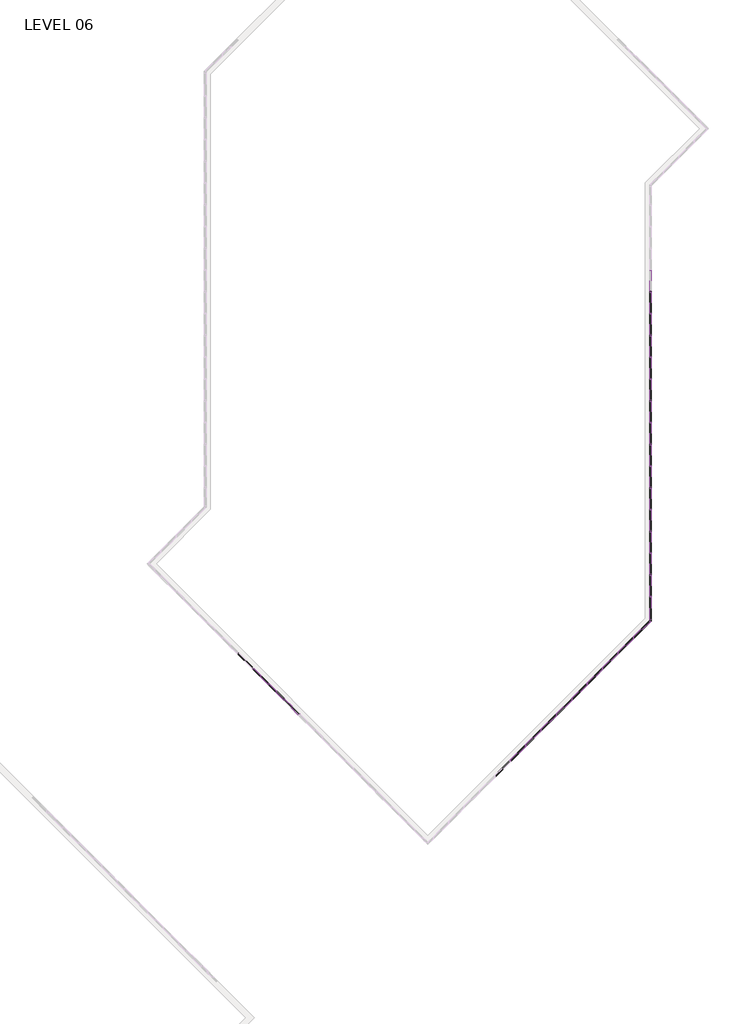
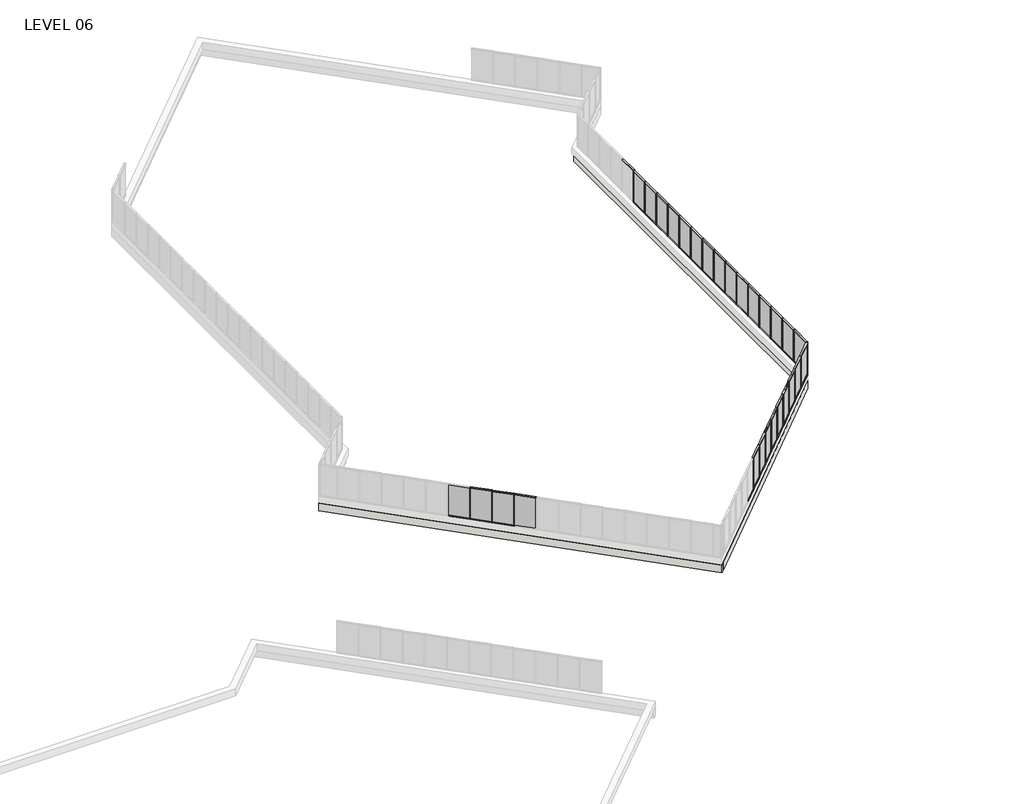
# One storey, part 11 of 17: 85 members, 28 plates, 3 walls.
"""IFC4 building model written with IfcOpenShell, lengths in millimetres."""

from ifc_helpers import new_model, si_unit, origin, place, context, project, spatial, faceted_brep, transform, mapped, element, save
from components import member_5247f267, member_e44af9ab, member_800970d4, member_1bd862b2, member_c975838b, member_910c08c9, plate_67294edd, plate_bbcbcabf, plate_3fb62afd, plate_88df3e37

model = new_model("IFC4")

# Units and contexts
model_context = context("Model", 3, world=origin())
ifc_project = project(units=[si_unit("LENGTHUNIT", "METRE", prefix="MILLI")], contexts=[model_context])

# Site, building, storey
site = spatial("IfcSite", under=ifc_project)
building = spatial("IfcBuilding", under=site)
storey = spatial("IfcBuildingStorey", under=building, Name="LEVEL 06", Elevation=19596.1)

# Members
placement = place(None, origin())
member_shape = member_5247f267(model_context)
element("IfcMember", 1, ObjectType="Rectangular Mullion : 2\" x 4.5\" rectangular", at=placement, inside=storey, context=model_context, shape_type="MappedRepresentation", body=[
    mapped(member_shape, transform((92435.9347164, 58305.3675885, 22186.9), x_axis=(0.0, 0.0, 1.0), y_axis=(-1.0, 0.0, 0.0), z_axis=(0.0, -1.0, 0.0))),
])
element("IfcMember", 2, ObjectType="Rectangular Mullion : 2\" x 4.5\" rectangular", at=placement, inside=storey, context=model_context, shape_type="MappedRepresentation", body=[
    mapped(member_shape, transform((92435.9347164, 56781.3675885, 22186.9), x_axis=(0.0, 0.0, 1.0), y_axis=(-1.0, 0.0, 0.0), z_axis=(0.0, -1.0, 0.0))),
])
element("IfcMember", 3, ObjectType="Rectangular Mullion : 2\" x 4.5\" rectangular", at=placement, inside=storey, context=model_context, shape_type="MappedRepresentation", body=[
    mapped(member_shape, transform((92435.9347164, 55257.3675885, 22186.9), x_axis=(0.0, 0.0, 1.0), y_axis=(-1.0, 0.0, 0.0), z_axis=(0.0, -1.0, 0.0))),
])
element("IfcMember", 4, ObjectType="Rectangular Mullion : 2\" x 4.5\" rectangular", at=placement, inside=storey, context=model_context, shape_type="MappedRepresentation", body=[
    mapped(member_shape, transform((92435.9347164, 52209.3675885, 22186.9), x_axis=(0.0, 0.0, 1.0), y_axis=(-1.0, 0.0, 0.0), z_axis=(0.0, -1.0, 0.0))),
])
element("IfcMember", 5, ObjectType="Rectangular Mullion : 2\" x 4.5\" rectangular", at=placement, inside=storey, context=model_context, shape_type="MappedRepresentation", body=[
    mapped(member_shape, transform((92435.9347164, 50685.3675885, 22186.9), x_axis=(0.0, 0.0, 1.0), y_axis=(-1.0, 0.0, 0.0), z_axis=(0.0, -1.0, 0.0))),
])
element("IfcMember", 6, ObjectType="Rectangular Mullion : 2\" x 4.5\" rectangular", at=placement, inside=storey, context=model_context, shape_type="MappedRepresentation", body=[
    mapped(member_shape, transform((92435.9347164, 47637.3675885, 22186.9), x_axis=(0.0, 0.0, 1.0), y_axis=(-1.0, 0.0, 0.0), z_axis=(0.0, -1.0, 0.0))),
])
element("IfcMember", 7, ObjectType="Rectangular Mullion : 2\" x 4.5\" rectangular", at=placement, inside=storey, context=model_context, shape_type="MappedRepresentation", body=[
    mapped(member_shape, transform((92435.9347164, 43065.3675885, 22186.9), x_axis=(0.0, 0.0, 1.0), y_axis=(-1.0, 0.0, 0.0), z_axis=(0.0, -1.0, 0.0))),
])
element("IfcMember", 8, ObjectType="Rectangular Mullion : 2\" x 4.5\" rectangular", at=placement, inside=storey, context=model_context, shape_type="MappedRepresentation", body=[
    mapped(member_shape, transform((92435.9347164, 41541.3675885, 22186.9), x_axis=(0.0, 0.0, 1.0), y_axis=(-1.0, 0.0, 0.0), z_axis=(0.0, -1.0, 0.0))),
])
element("IfcMember", 9, ObjectType="Rectangular Mullion : 2\" x 4.5\" rectangular", at=placement, inside=storey, context=model_context, shape_type="MappedRepresentation", body=[
    mapped(member_shape, transform((92435.9347164, 59829.3675885, 22186.9), x_axis=(0.0, 0.0, 1.0), y_axis=(-1.0, 0.0, 0.0), z_axis=(0.0, -1.0, 0.0))),
])
element("IfcMember", 10, ObjectType="Rectangular Mullion : 2\" x 4.5\" rectangular", at=placement, inside=storey, context=model_context, shape_type="MappedRepresentation", body=[
    mapped(member_shape, transform((92435.9347164, 61353.3675885, 22186.9), x_axis=(0.0, 0.0, 1.0), y_axis=(-1.0, 0.0, 0.0), z_axis=(0.0, -1.0, 0.0))),
])
element("IfcMember", 11, ObjectType="Rectangular Mullion : 2\" x 4.5\" rectangular", at=placement, inside=storey, context=model_context, shape_type="MappedRepresentation", body=[
    mapped(member_shape, transform((92435.9347164, 49161.3675885, 22186.9), x_axis=(0.0, 0.0, 1.0), y_axis=(-1.0, 0.0, 0.0), z_axis=(0.0, -1.0, 0.0))),
])
element("IfcMember", 12, ObjectType="Rectangular Mullion : 2\" x 4.5\" rectangular", at=placement, inside=storey, context=model_context, shape_type="MappedRepresentation", body=[
    mapped(member_shape, transform((92435.9347164, 53733.3675885, 22186.9), x_axis=(0.0, 0.0, 1.0), y_axis=(-1.0, 0.0, 0.0), z_axis=(0.0, -1.0, 0.0))),
])
element("IfcMember", 13, ObjectType="Rectangular Mullion : 2\" x 4.5\" rectangular", at=placement, inside=storey, context=model_context, shape_type="MappedRepresentation", body=[
    mapped(member_shape, transform((92435.9347164, 46113.3675885, 22186.9), x_axis=(0.0, 0.0, 1.0), y_axis=(-1.0, 0.0, 0.0), z_axis=(0.0, -1.0, 0.0))),
])
element("IfcMember", 14, ObjectType="Rectangular Mullion : 2\" x 4.5\" rectangular", at=placement, inside=storey, context=model_context, shape_type="MappedRepresentation", body=[
    mapped(member_shape, transform((92435.9347164, 44589.3675885, 22186.9), x_axis=(0.0, 0.0, 1.0), y_axis=(-1.0, 0.0, 0.0), z_axis=(0.0, -1.0, 0.0))),
])
element("IfcMember", 15, ObjectType="Rectangular Mullion : 2\" x 4.5\" rectangular", at=placement, inside=storey, context=model_context, shape_type="MappedRepresentation", body=[
    mapped(member_shape, transform((92435.9347164, 40017.3675885, 22186.9), x_axis=(0.0, 0.0, 1.0), y_axis=(-1.0, 0.0, 0.0), z_axis=(0.0, -1.0, 0.0))),
])
element("IfcMember", 16, ObjectType="Rectangular Mullion : 2\" x 4.5\" rectangular", at=placement, inside=storey, context=model_context, shape_type="MappedRepresentation", body=[
    mapped(member_shape, transform((90181.6405, 36047.9672365, 22186.9), x_axis=(0.0, 0.0, 1.0), y_axis=(-0.7071067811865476, 0.7071067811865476, 0.0), z_axis=(-0.7071067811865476, -0.7071067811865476, 0.0))),
])
element("IfcMember", 17, ObjectType="Rectangular Mullion : 2\" x 4.5\" rectangular", at=placement, inside=storey, context=model_context, shape_type="MappedRepresentation", body=[
    mapped(member_shape, transform((89104.0097655, 34970.336502, 22186.9), x_axis=(0.0, 0.0, 1.0), y_axis=(-0.7071067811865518, 0.7071067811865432, 0.0), z_axis=(-0.7071067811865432, -0.7071067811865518, 0.0))),
])
element("IfcMember", 18, ObjectType="Rectangular Mullion : 2\" x 4.5\" rectangular", at=placement, inside=storey, context=model_context, shape_type="MappedRepresentation", body=[
    mapped(member_shape, transform((88026.379031, 33892.7057675, 22186.9), x_axis=(0.0, 0.0, 1.0), y_axis=(-0.707106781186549, 0.7071067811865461, 0.0), z_axis=(-0.7071067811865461, -0.707106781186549, 0.0))),
])
element("IfcMember", 19, ObjectType="Rectangular Mullion : 2\" x 4.5\" rectangular", at=placement, inside=storey, context=model_context, shape_type="MappedRepresentation", body=[
    mapped(member_shape, transform((85871.1175619, 31737.4442984, 22186.9), x_axis=(0.0, 0.0, 1.0), y_axis=(-0.7071067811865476, 0.7071067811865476, 0.0), z_axis=(-0.7071067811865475, -0.7071067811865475, 0.0))),
])
element("IfcMember", 20, ObjectType="Rectangular Mullion : 2\" x 4.5\" rectangular", at=placement, inside=storey, context=model_context, shape_type="MappedRepresentation", body=[
    mapped(member_shape, transform((84793.4868274, 30659.8135639, 22186.9), x_axis=(0.0, 0.0, 1.0), y_axis=(-0.7071067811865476, 0.7071067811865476, 0.0), z_axis=(-0.7071067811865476, -0.7071067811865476, 0.0))),
])
element("IfcMember", 21, ObjectType="Rectangular Mullion : 2\" x 4.5\" rectangular", at=placement, inside=storey, context=model_context, shape_type="MappedRepresentation", body=[
    mapped(member_shape, transform((83715.8560929, 29582.1828294, 22186.9), x_axis=(0.0, 0.0, 1.0), y_axis=(-0.7071067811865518, 0.7071067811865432, 0.0), z_axis=(-0.7071067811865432, -0.7071067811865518, 0.0))),
])
element("IfcMember", 22, ObjectType="Rectangular Mullion : 2\" x 4.5\" rectangular", at=placement, inside=storey, context=model_context, shape_type="MappedRepresentation", body=[
    mapped(member_shape, transform((86948.7482965, 32815.0750329, 22186.9), x_axis=(0.0, 0.0, 1.0), y_axis=(-0.7071067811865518, 0.7071067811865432, 0.0), z_axis=(-0.7071067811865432, -0.7071067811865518, 0.0))),
])
element("IfcMember", 23, ObjectType="Rectangular Mullion : 2\" x 4.5\" rectangular", at=placement, inside=storey, context=model_context, shape_type="MappedRepresentation", body=[
    mapped(member_shape, transform((82638.2253583, 28504.5520948, 22186.9), x_axis=(0.0, 0.0, 1.0), y_axis=(-0.7071067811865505, 0.7071067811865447, 0.0), z_axis=(-0.7071067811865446, -0.7071067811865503, 0.0))),
])
element("IfcMember", 24, ObjectType="Rectangular Mullion : 2\" x 4.5\" rectangular", at=placement, inside=storey, context=model_context, shape_type="MappedRepresentation", body=[
    mapped(member_shape, transform((64631.8093644, 34934.2368049, 22186.9), x_axis=(0.0, 0.0, 1.0), y_axis=(0.7071067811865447, 0.7071067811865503, 0.0), z_axis=(-0.7071067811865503, 0.7071067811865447, 0.0))),
])
element("IfcMember", 25, ObjectType="Rectangular Mullion : 2\" x 4.5\" rectangular", at=placement, inside=storey, context=model_context, shape_type="MappedRepresentation", body=[
    mapped(member_shape, transform((92435.9347164, 58254.5675885, 19596.1), x_axis=(0.0, 0.0, -1.0), y_axis=(-1.0, 0.0, 0.0), z_axis=(0.0, 1.0, 0.0))),
])
element("IfcMember", 26, ObjectType="Rectangular Mullion : 2\" x 4.5\" rectangular", at=placement, inside=storey, context=model_context, shape_type="MappedRepresentation", body=[
    mapped(member_shape, transform((92435.9347164, 56730.5675885, 19596.1), x_axis=(0.0, 0.0, -1.0), y_axis=(-1.0, 0.0, 0.0), z_axis=(0.0, 1.0, 0.0))),
])
element("IfcMember", 27, ObjectType="Rectangular Mullion : 2\" x 4.5\" rectangular", at=placement, inside=storey, context=model_context, shape_type="MappedRepresentation", body=[
    mapped(member_shape, transform((92435.9347164, 55206.5675885, 19596.1), x_axis=(0.0, 0.0, -1.0), y_axis=(-1.0, 0.0, 0.0), z_axis=(0.0, 1.0, 0.0))),
])
element("IfcMember", 28, ObjectType="Rectangular Mullion : 2\" x 4.5\" rectangular", at=placement, inside=storey, context=model_context, shape_type="MappedRepresentation", body=[
    mapped(member_shape, transform((92435.9347164, 52158.5675885, 19596.1), x_axis=(0.0, 0.0, -1.0), y_axis=(-1.0, 0.0, 0.0), z_axis=(0.0, 1.0, 0.0))),
])
element("IfcMember", 29, ObjectType="Rectangular Mullion : 2\" x 4.5\" rectangular", at=placement, inside=storey, context=model_context, shape_type="MappedRepresentation", body=[
    mapped(member_shape, transform((92435.9347164, 50634.5675885, 19596.1), x_axis=(0.0, 0.0, -1.0), y_axis=(-1.0, 0.0, 0.0), z_axis=(0.0, 1.0, 0.0))),
])
element("IfcMember", 30, ObjectType="Rectangular Mullion : 2\" x 4.5\" rectangular", at=placement, inside=storey, context=model_context, shape_type="MappedRepresentation", body=[
    mapped(member_shape, transform((92435.9347164, 47586.5675885, 19596.1), x_axis=(0.0, 0.0, -1.0), y_axis=(-1.0, 0.0, 0.0), z_axis=(0.0, 1.0, 0.0))),
])
element("IfcMember", 31, ObjectType="Rectangular Mullion : 2\" x 4.5\" rectangular", at=placement, inside=storey, context=model_context, shape_type="MappedRepresentation", body=[
    mapped(member_shape, transform((92435.9347164, 43014.5675885, 19596.1), x_axis=(0.0, 0.0, -1.0), y_axis=(-1.0, 0.0, 0.0), z_axis=(0.0, 1.0, 0.0))),
])
element("IfcMember", 32, ObjectType="Rectangular Mullion : 2\" x 4.5\" rectangular", at=placement, inside=storey, context=model_context, shape_type="MappedRepresentation", body=[
    mapped(member_shape, transform((92435.9347164, 41490.5675885, 19596.1), x_axis=(0.0, 0.0, -1.0), y_axis=(-1.0, 0.0, 0.0), z_axis=(0.0, 1.0, 0.0))),
])
element("IfcMember", 33, ObjectType="Rectangular Mullion : 2\" x 4.5\" rectangular", at=placement, inside=storey, context=model_context, shape_type="MappedRepresentation", body=[
    mapped(member_shape, transform((92435.9347164, 59778.5675885, 19596.1), x_axis=(0.0, 0.0, -1.0), y_axis=(-1.0, 0.0, 0.0), z_axis=(0.0, 1.0, 0.0))),
])
element("IfcMember", 34, ObjectType="Rectangular Mullion : 2\" x 4.5\" rectangular", at=placement, inside=storey, context=model_context, shape_type="MappedRepresentation", body=[
    mapped(member_shape, transform((92435.9347164, 61302.5675885, 19596.1), x_axis=(0.0, 0.0, -1.0), y_axis=(-1.0, 0.0, 0.0), z_axis=(0.0, 1.0, 0.0))),
])
element("IfcMember", 35, ObjectType="Rectangular Mullion : 2\" x 4.5\" rectangular", at=placement, inside=storey, context=model_context, shape_type="MappedRepresentation", body=[
    mapped(member_shape, transform((92435.9347164, 49110.5675885, 19596.1), x_axis=(0.0, 0.0, -1.0), y_axis=(-1.0, 0.0, 0.0), z_axis=(0.0, 1.0, 0.0))),
])
element("IfcMember", 36, ObjectType="Rectangular Mullion : 2\" x 4.5\" rectangular", at=placement, inside=storey, context=model_context, shape_type="MappedRepresentation", body=[
    mapped(member_shape, transform((92435.9347164, 53682.5675885, 19596.1), x_axis=(0.0, 0.0, -1.0), y_axis=(-1.0, 0.0, 0.0), z_axis=(0.0, 1.0, 0.0))),
])
element("IfcMember", 37, ObjectType="Rectangular Mullion : 2\" x 4.5\" rectangular", at=placement, inside=storey, context=model_context, shape_type="MappedRepresentation", body=[
    mapped(member_shape, transform((92435.9347164, 46062.5675885, 19596.1), x_axis=(0.0, 0.0, -1.0), y_axis=(-1.0, 0.0, 0.0), z_axis=(0.0, 1.0, 0.0))),
])
element("IfcMember", 38, ObjectType="Rectangular Mullion : 2\" x 4.5\" rectangular", at=placement, inside=storey, context=model_context, shape_type="MappedRepresentation", body=[
    mapped(member_shape, transform((92435.9347164, 44538.5675885, 19596.1), x_axis=(0.0, 0.0, -1.0), y_axis=(-1.0, 0.0, 0.0), z_axis=(0.0, 1.0, 0.0))),
])
element("IfcMember", 39, ObjectType="Rectangular Mullion : 2\" x 4.5\" rectangular", at=placement, inside=storey, context=model_context, shape_type="MappedRepresentation", body=[
    mapped(member_shape, transform((91223.3502101, 37089.6769466, 19596.1), x_axis=(0.0, 0.0, -1.0), y_axis=(-0.7071067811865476, 0.7071067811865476, 0.0), z_axis=(0.7071067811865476, 0.7071067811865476, 0.0))),
])
element("IfcMember", 40, ObjectType="Rectangular Mullion : 2\" x 4.5\" rectangular", at=placement, inside=storey, context=model_context, shape_type="MappedRepresentation", body=[
    mapped(member_shape, transform((90145.7194756, 36012.046212, 19596.1), x_axis=(0.0, 0.0, -1.0), y_axis=(-0.7071067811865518, 0.7071067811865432, 0.0), z_axis=(0.7071067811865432, 0.7071067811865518, 0.0))),
])
element("IfcMember", 41, ObjectType="Rectangular Mullion : 2\" x 4.5\" rectangular", at=placement, inside=storey, context=model_context, shape_type="MappedRepresentation", body=[
    mapped(member_shape, transform((89068.088741, 34934.4154775, 19596.1), x_axis=(0.0, 0.0, -1.0), y_axis=(-0.707106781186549, 0.7071067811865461, 0.0), z_axis=(0.7071067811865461, 0.707106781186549, 0.0))),
])
element("IfcMember", 42, ObjectType="Rectangular Mullion : 2\" x 4.5\" rectangular", at=placement, inside=storey, context=model_context, shape_type="MappedRepresentation", body=[
    mapped(member_shape, transform((87990.4580065, 33856.784743, 19596.1), x_axis=(0.0, 0.0, -1.0), y_axis=(-0.7071067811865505, 0.7071067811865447, 0.0), z_axis=(0.7071067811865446, 0.7071067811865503, 0.0))),
])
element("IfcMember", 43, ObjectType="Rectangular Mullion : 2\" x 4.5\" rectangular", at=placement, inside=storey, context=model_context, shape_type="MappedRepresentation", body=[
    mapped(member_shape, transform((85835.1965374, 31701.5232739, 19596.1), x_axis=(0.0, 0.0, -1.0), y_axis=(-0.7071067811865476, 0.7071067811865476, 0.0), z_axis=(0.7071067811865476, 0.7071067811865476, 0.0))),
])
element("IfcMember", 44, ObjectType="Rectangular Mullion : 2\" x 4.5\" rectangular", at=placement, inside=storey, context=model_context, shape_type="MappedRepresentation", body=[
    mapped(member_shape, transform((84757.5658029, 30623.8925394, 19596.1), x_axis=(0.0, 0.0, -1.0), y_axis=(-0.7071067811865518, 0.7071067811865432, 0.0), z_axis=(0.7071067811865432, 0.7071067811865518, 0.0))),
])
element("IfcMember", 45, ObjectType="Rectangular Mullion : 2\" x 4.5\" rectangular", at=placement, inside=storey, context=model_context, shape_type="MappedRepresentation", body=[
    mapped(member_shape, transform((83679.9350684, 29546.2618049, 19596.1), x_axis=(0.0, 0.0, -1.0), y_axis=(-0.7071067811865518, 0.7071067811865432, 0.0), z_axis=(0.7071067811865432, 0.7071067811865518, 0.0))),
])
element("IfcMember", 46, ObjectType="Rectangular Mullion : 2\" x 4.5\" rectangular", at=placement, inside=storey, context=model_context, shape_type="MappedRepresentation", body=[
    mapped(member_shape, transform((86912.827272, 32779.1540085, 19596.1), x_axis=(0.0, 0.0, -1.0), y_axis=(-0.7071067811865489, 0.7071067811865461, 0.0), z_axis=(0.7071067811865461, 0.7071067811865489, 0.0))),
])
element("IfcMember", 47, ObjectType="Rectangular Mullion : 2\" x 4.5\" rectangular", at=placement, inside=storey, context=model_context, shape_type="MappedRepresentation", body=[
    mapped(member_shape, transform((82602.3043339, 28468.6310704, 19596.1), x_axis=(0.0, 0.0, -1.0), y_axis=(-0.7071067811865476, 0.7071067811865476, 0.0), z_axis=(0.7071067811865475, 0.7071067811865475, 0.0))),
])
element("IfcMember", 48, ObjectType="Rectangular Mullion : 2\" x 4.5\" rectangular", at=placement, inside=storey, context=model_context, shape_type="MappedRepresentation", body=[
    mapped(member_shape, transform((65673.5190745, 33892.5270948, 19596.1), x_axis=(0.0, 0.0, -1.0), y_axis=(0.7071067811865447, 0.7071067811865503, 0.0), z_axis=(0.7071067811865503, -0.7071067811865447, 0.0))),
])
element("IfcMember", 49, ObjectType="Rectangular Mullion : 2\" x 4.5\" rectangular", at=placement, inside=storey, context=model_context, shape_type="MappedRepresentation", body=[
    mapped(member_shape, transform((64595.8883399, 34970.1578294, 19596.1), x_axis=(0.0, 0.0, -1.0), y_axis=(0.7071067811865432, 0.7071067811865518, 0.0), z_axis=(0.7071067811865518, -0.7071067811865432, 0.0))),
])
member_2_shape = member_e44af9ab(model_context)
element("IfcMember", 50, ObjectType="Rectangular Mullion : 2\" x 4.5\" rectangular", at=placement, inside=storey, context=model_context, shape_type="MappedRepresentation", body=[
    mapped(member_2_shape, transform((92435.9347164, 58279.9675885, 19596.1), x_axis=(0.0, -1.0, 0.0), y_axis=(-1.0, 0.0, 0.0), z_axis=(0.0, 0.0, -1.0))),
])
element("IfcMember", 51, ObjectType="Rectangular Mullion : 2\" x 4.5\" rectangular", at=placement, inside=storey, context=model_context, shape_type="MappedRepresentation", body=[
    mapped(member_2_shape, transform((92435.9347164, 56755.9675885, 19596.1), x_axis=(0.0, -1.0, 0.0), y_axis=(-1.0, 0.0, 0.0), z_axis=(0.0, 0.0, -1.0))),
])
element("IfcMember", 52, ObjectType="Rectangular Mullion : 2\" x 4.5\" rectangular", at=placement, inside=storey, context=model_context, shape_type="MappedRepresentation", body=[
    mapped(member_2_shape, transform((92435.9347164, 55231.9675885, 19596.1), x_axis=(0.0, -1.0, 0.0), y_axis=(-1.0, 0.0, 0.0), z_axis=(0.0, 0.0, -1.0))),
])
element("IfcMember", 53, ObjectType="Rectangular Mullion : 2\" x 4.5\" rectangular", at=placement, inside=storey, context=model_context, shape_type="MappedRepresentation", body=[
    mapped(member_2_shape, transform((92435.9347164, 52183.9675885, 19596.1), x_axis=(0.0, -1.0, 0.0), y_axis=(-1.0, 0.0, 0.0), z_axis=(0.0, 0.0, -1.0))),
])
element("IfcMember", 54, ObjectType="Rectangular Mullion : 2\" x 4.5\" rectangular", at=placement, inside=storey, context=model_context, shape_type="MappedRepresentation", body=[
    mapped(member_2_shape, transform((92435.9347164, 50659.9675885, 19596.1), x_axis=(0.0, -1.0, 0.0), y_axis=(-1.0, 0.0, 0.0), z_axis=(0.0, 0.0, -1.0))),
])
element("IfcMember", 55, ObjectType="Rectangular Mullion : 2\" x 4.5\" rectangular", at=placement, inside=storey, context=model_context, shape_type="MappedRepresentation", body=[
    mapped(member_2_shape, transform((92435.9347164, 47611.9675885, 19596.1), x_axis=(0.0, -1.0, 0.0), y_axis=(-1.0, 0.0, 0.0), z_axis=(0.0, 0.0, -1.0))),
])
element("IfcMember", 56, ObjectType="Rectangular Mullion : 2\" x 4.5\" rectangular", at=placement, inside=storey, context=model_context, shape_type="MappedRepresentation", body=[
    mapped(member_2_shape, transform((92435.9347164, 43039.9675885, 19596.1), x_axis=(0.0, -1.0, 0.0), y_axis=(-1.0, 0.0, 0.0), z_axis=(0.0, 0.0, -1.0))),
])
element("IfcMember", 57, ObjectType="Rectangular Mullion : 2\" x 4.5\" rectangular", at=placement, inside=storey, context=model_context, shape_type="MappedRepresentation", body=[
    mapped(member_2_shape, transform((92435.9347164, 41515.9675885, 19596.1), x_axis=(0.0, -1.0, 0.0), y_axis=(-1.0, 0.0, 0.0), z_axis=(0.0, 0.0, -1.0))),
])
element("IfcMember", 58, ObjectType="Rectangular Mullion : 2\" x 4.5\" rectangular", at=placement, inside=storey, context=model_context, shape_type="MappedRepresentation", body=[
    mapped(member_2_shape, transform((92435.9347164, 59803.9675885, 19596.1), x_axis=(0.0, -1.0, 0.0), y_axis=(-1.0, 0.0, 0.0), z_axis=(0.0, 0.0, -1.0))),
])
element("IfcMember", 59, ObjectType="Rectangular Mullion : 2\" x 4.5\" rectangular", at=placement, inside=storey, context=model_context, shape_type="MappedRepresentation", body=[
    mapped(member_2_shape, transform((92435.9347164, 61327.9675885, 19596.1), x_axis=(0.0, -1.0, 0.0), y_axis=(-1.0, 0.0, 0.0), z_axis=(0.0, 0.0, -1.0))),
])
element("IfcMember", 60, ObjectType="Rectangular Mullion : 2\" x 4.5\" rectangular", at=placement, inside=storey, context=model_context, shape_type="MappedRepresentation", body=[
    mapped(member_2_shape, transform((92435.9347164, 49135.9675885, 19596.1), x_axis=(0.0, -1.0, 0.0), y_axis=(-1.0, 0.0, 0.0), z_axis=(0.0, 0.0, -1.0))),
])
element("IfcMember", 61, ObjectType="Rectangular Mullion : 2\" x 4.5\" rectangular", at=placement, inside=storey, context=model_context, shape_type="MappedRepresentation", body=[
    mapped(member_2_shape, transform((92435.9347164, 53707.9675885, 19596.1), x_axis=(0.0, -1.0, 0.0), y_axis=(-1.0, 0.0, 0.0), z_axis=(0.0, 0.0, -1.0))),
])
element("IfcMember", 62, ObjectType="Rectangular Mullion : 2\" x 4.5\" rectangular", at=placement, inside=storey, context=model_context, shape_type="MappedRepresentation", body=[
    mapped(member_2_shape, transform((92435.9347164, 46087.9675885, 19596.1), x_axis=(0.0, -1.0, 0.0), y_axis=(-1.0, 0.0, 0.0), z_axis=(0.0, 0.0, -1.0))),
])
element("IfcMember", 63, ObjectType="Rectangular Mullion : 2\" x 4.5\" rectangular", at=placement, inside=storey, context=model_context, shape_type="MappedRepresentation", body=[
    mapped(member_2_shape, transform((92435.9347164, 44563.9675885, 19596.1), x_axis=(0.0, -1.0, 0.0), y_axis=(-1.0, 0.0, 0.0), z_axis=(0.0, 0.0, -1.0))),
])
element("IfcMember", 64, ObjectType="Rectangular Mullion : 2\" x 4.5\" rectangular", at=placement, inside=storey, context=model_context, shape_type="MappedRepresentation", body=[
    mapped(member_2_shape, transform((92435.9347164, 39991.9675885, 19596.1), x_axis=(0.0, -1.0, 0.0), y_axis=(-1.0, 0.0, 0.0), z_axis=(0.0, 0.0, -1.0))),
])
element("IfcMember", 65, ObjectType="Rectangular Mullion : 2\" x 4.5\" rectangular", at=placement, inside=storey, context=model_context, shape_type="MappedRepresentation", body=[
    mapped(member_2_shape, transform((91241.3107223, 37107.6374588, 19596.1), x_axis=(-0.7071067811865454, -0.7071067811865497, 0.0), y_axis=(-0.7071067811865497, 0.7071067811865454, 0.0), z_axis=(0.0, 0.0, -1.0))),
])
element("IfcMember", 66, ObjectType="Rectangular Mullion : 2\" x 4.5\" rectangular", at=placement, inside=storey, context=model_context, shape_type="MappedRepresentation", body=[
    mapped(member_2_shape, transform((90163.6799878, 36030.0067243, 19596.1), x_axis=(-0.7071067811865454, -0.7071067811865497, 0.0), y_axis=(-0.7071067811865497, 0.7071067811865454, 0.0), z_axis=(0.0, 0.0, -1.0))),
])
element("IfcMember", 67, ObjectType="Rectangular Mullion : 2\" x 4.5\" rectangular", at=placement, inside=storey, context=model_context, shape_type="MappedRepresentation", body=[
    mapped(member_2_shape, transform((89086.0492533, 34952.3759898, 19596.1), x_axis=(-0.7071067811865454, -0.7071067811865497, 0.0), y_axis=(-0.7071067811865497, 0.7071067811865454, 0.0), z_axis=(0.0, 0.0, -1.0))),
])
element("IfcMember", 68, ObjectType="Rectangular Mullion : 2\" x 4.5\" rectangular", at=placement, inside=storey, context=model_context, shape_type="MappedRepresentation", body=[
    mapped(member_2_shape, transform((88008.4185187, 33874.7452552, 19596.1), x_axis=(-0.7071067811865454, -0.7071067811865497, 0.0), y_axis=(-0.7071067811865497, 0.7071067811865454, 0.0), z_axis=(0.0, 0.0, -1.0))),
])
element("IfcMember", 69, ObjectType="Rectangular Mullion : 2\" x 4.5\" rectangular", at=placement, inside=storey, context=model_context, shape_type="MappedRepresentation", body=[
    mapped(member_2_shape, transform((85853.1570497, 31719.4837862, 19596.1), x_axis=(-0.7071067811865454, -0.7071067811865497, 0.0), y_axis=(-0.7071067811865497, 0.7071067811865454, 0.0), z_axis=(0.0, 0.0, -1.0))),
])
element("IfcMember", 70, ObjectType="Rectangular Mullion : 2\" x 4.5\" rectangular", at=placement, inside=storey, context=model_context, shape_type="MappedRepresentation", body=[
    mapped(member_2_shape, transform((84775.5263152, 30641.8530517, 19596.1), x_axis=(-0.7071067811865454, -0.7071067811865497, 0.0), y_axis=(-0.7071067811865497, 0.7071067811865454, 0.0), z_axis=(0.0, 0.0, -1.0))),
])
element("IfcMember", 71, ObjectType="Rectangular Mullion : 2\" x 4.5\" rectangular", at=placement, inside=storey, context=model_context, shape_type="MappedRepresentation", body=[
    mapped(member_2_shape, transform((83697.8955806, 29564.2223171, 19596.1), x_axis=(-0.7071067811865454, -0.7071067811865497, 0.0), y_axis=(-0.7071067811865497, 0.7071067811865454, 0.0), z_axis=(0.0, 0.0, -1.0))),
])
element("IfcMember", 72, ObjectType="Rectangular Mullion : 2\" x 4.5\" rectangular", at=placement, inside=storey, context=model_context, shape_type="MappedRepresentation", body=[
    mapped(member_2_shape, transform((86930.7877842, 32797.1145207, 19596.1), x_axis=(-0.7071067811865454, -0.7071067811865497, 0.0), y_axis=(-0.7071067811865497, 0.7071067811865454, 0.0), z_axis=(0.0, 0.0, -1.0))),
])
element("IfcMember", 73, ObjectType="Rectangular Mullion : 2\" x 4.5\" rectangular", at=placement, inside=storey, context=model_context, shape_type="MappedRepresentation", body=[
    mapped(member_2_shape, transform((82620.2648461, 28486.5915826, 19596.1), x_axis=(-0.7071067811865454, -0.7071067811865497, 0.0), y_axis=(-0.7071067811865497, 0.7071067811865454, 0.0), z_axis=(0.0, 0.0, -1.0))),
])
element("IfcMember", 74, ObjectType="Rectangular Mullion : 2\" x 4.5\" rectangular", at=placement, inside=storey, context=model_context, shape_type="MappedRepresentation", body=[
    mapped(member_2_shape, transform((65691.4795867, 33874.5665826, 19596.1), x_axis=(-0.7071067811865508, 0.7071067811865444, 0.0), y_axis=(0.7071067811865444, 0.7071067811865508, 0.0), z_axis=(0.0, 0.0, -1.0))),
])
element("IfcMember", 75, ObjectType="Rectangular Mullion : 2\" x 4.5\" rectangular", at=placement, inside=storey, context=model_context, shape_type="MappedRepresentation", body=[
    mapped(member_2_shape, transform((64613.8488522, 34952.1973171, 19596.1), x_axis=(-0.7071067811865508, 0.7071067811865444, 0.0), y_axis=(0.7071067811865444, 0.7071067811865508, 0.0), z_axis=(0.0, 0.0, -1.0))),
])
element("IfcMember", 76, ObjectType="Rectangular Mullion : 2\" x 4.5\" rectangular", at=placement, inside=storey, context=model_context, shape_type="MappedRepresentation", body=[
    mapped(member_2_shape, transform((66768.9316486, 32797.1145207, 19596.1), x_axis=(-0.7071067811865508, 0.7071067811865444, 0.0), y_axis=(0.7071067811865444, 0.7071067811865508, 0.0), z_axis=(0.0, 0.0, -1.0))),
])
member_3_shape = member_800970d4(model_context)
element("IfcMember", 77, ObjectType="Rectangular Mullion : 2\" x 4.5\" rectangular", at=placement, inside=storey, context=model_context, shape_type="MappedRepresentation", body=[
    mapped(member_3_shape, transform((92435.9347164, 38302.2614529, 19596.1), x_axis=(0.0, -1.0, 0.0), y_axis=(-1.0, 0.0, 0.0), z_axis=(0.0, 0.0, -1.0))),
])
element("IfcMember", 78, ObjectType="Rectangular Mullion : 2\" x 4.5\" rectangular", at=placement, inside=storey, context=model_context, shape_type="MappedRepresentation", body=[
    mapped(member_3_shape, transform((92435.9347164, 38302.2614529, 22186.9), x_axis=(0.7071067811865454, 0.7071067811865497, 0.0), y_axis=(-0.7071067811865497, 0.7071067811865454, 0.0), z_axis=(0.0, 0.0, 1.0))),
])
member_4_shape = member_1bd862b2(model_context)
element("IfcMember", 79, ObjectType="Rectangular Mullion : 2\" x 4.5\" rectangular", at=placement, inside=storey, context=model_context, shape_type="MappedRepresentation", body=[
    mapped(member_4_shape, transform((92435.9347164, 39966.5675885, 19596.1), x_axis=(0.0, 0.0, -1.0), y_axis=(-1.0, 0.0, 0.0), z_axis=(0.0, 1.0, 0.0))),
])
element("IfcMember", 80, ObjectType="Rectangular Mullion : 2\" x 4.5\" rectangular", at=placement, inside=storey, context=model_context, shape_type="MappedRepresentation", body=[
    mapped(member_4_shape, transform((92435.9347164, 38353.0614529, 22186.9), x_axis=(0.0, 0.0, 1.0), y_axis=(-1.0, 0.0, 0.0), z_axis=(0.0, -1.0, 0.0))),
])
member_5_shape = member_c975838b(model_context)
element("IfcMember", 81, ObjectType="Rectangular Mullion : 2\" x 4.5\" rectangular", at=placement, inside=storey, context=model_context, shape_type="MappedRepresentation", body=[
    mapped(member_5_shape, transform((92400.0136919, 38266.3404284, 19596.1), x_axis=(0.0, 0.0, -1.0), y_axis=(-0.7071067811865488, 0.7071067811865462, 0.0), z_axis=(0.7071067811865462, 0.7071067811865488, 0.0))),
])
element("IfcMember", 82, ObjectType="Rectangular Mullion : 2\" x 4.5\" rectangular", at=placement, inside=storey, context=model_context, shape_type="MappedRepresentation", body=[
    mapped(member_5_shape, transform((91259.2712346, 37125.5979711, 22186.9), x_axis=(0.0, 0.0, 1.0), y_axis=(-0.7071067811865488, 0.7071067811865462, 0.0), z_axis=(-0.7071067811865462, -0.7071067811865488, 0.0))),
])
member_6_shape = member_910c08c9(model_context)
element("IfcMember", 83, ObjectType="Rectangular Mullion : 2\" x 4.5\" rectangular", at=placement, inside=storey, context=model_context, shape_type="MappedRepresentation", body=[
    mapped(member_6_shape, transform((65709.4400989, 33856.6060704, 22186.9), x_axis=(0.0, 0.0, 1.0), y_axis=(0.7071067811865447, 0.7071067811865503, 0.0), z_axis=(-0.7071067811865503, 0.7071067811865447, 0.0))),
])
element("IfcMember", 84, ObjectType="Rectangular Mullion : 2\" x 4.5\" rectangular", at=placement, inside=storey, context=model_context, shape_type="MappedRepresentation", body=[
    mapped(member_6_shape, transform((66786.8921608, 32779.1540085, 22186.9), x_axis=(0.0, 0.0, 1.0), y_axis=(0.7071067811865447, 0.7071067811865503, 0.0), z_axis=(-0.7071067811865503, 0.7071067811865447, 0.0))),
])
element("IfcMember", 85, ObjectType="Rectangular Mullion : 2\" x 4.5\" rectangular", at=placement, inside=storey, context=model_context, shape_type="MappedRepresentation", body=[
    mapped(member_6_shape, transform((66750.9711363, 32815.0750329, 19596.1), x_axis=(0.0, 0.0, -1.0), y_axis=(0.7071067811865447, 0.7071067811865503, 0.0), z_axis=(0.7071067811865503, -0.7071067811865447, 0.0))),
])

# Plates
plate_shape = plate_67294edd(model_context)
element("IfcPlate", 86, ObjectType="System Panel : 1/4\" Glass", at=placement, inside=storey, context=model_context, shape_type="MappedRepresentation", body=[
    mapped(plate_shape, transform((92435.9347164, 57517.9675885, 19646.9), x_axis=(0.0, -1.0, 0.0), y_axis=(1.0, 0.0, 0.0), z_axis=(0.0, 0.0, 1.0))),
])
element("IfcPlate", 87, ObjectType="System Panel : 1/4\" Glass", at=placement, inside=storey, context=model_context, shape_type="MappedRepresentation", body=[
    mapped(plate_shape, transform((92435.9347164, 55993.9675885, 19646.9), x_axis=(0.0, -1.0, 0.0), y_axis=(1.0, 0.0, 0.0), z_axis=(0.0, 0.0, 1.0))),
])
element("IfcPlate", 88, ObjectType="System Panel : 1/4\" Glass", at=placement, inside=storey, context=model_context, shape_type="MappedRepresentation", body=[
    mapped(plate_shape, transform((92435.9347164, 54469.9675885, 19646.9), x_axis=(0.0, -1.0, 0.0), y_axis=(1.0, 0.0, 0.0), z_axis=(0.0, 0.0, 1.0))),
])
element("IfcPlate", 89, ObjectType="System Panel : 1/4\" Glass", at=placement, inside=storey, context=model_context, shape_type="MappedRepresentation", body=[
    mapped(plate_shape, transform((92435.9347164, 51421.9675885, 19646.9), x_axis=(0.0, -1.0, 0.0), y_axis=(1.0, 0.0, 0.0), z_axis=(0.0, 0.0, 1.0))),
])
element("IfcPlate", 90, ObjectType="System Panel : 1/4\" Glass", at=placement, inside=storey, context=model_context, shape_type="MappedRepresentation", body=[
    mapped(plate_shape, transform((92435.9347164, 49897.9675885, 19646.9), x_axis=(0.0, -1.0, 0.0), y_axis=(1.0, 0.0, 0.0), z_axis=(0.0, 0.0, 1.0))),
])
element("IfcPlate", 91, ObjectType="System Panel : 1/4\" Glass", at=placement, inside=storey, context=model_context, shape_type="MappedRepresentation", body=[
    mapped(plate_shape, transform((92435.9347164, 46849.9675885, 19646.9), x_axis=(0.0, -1.0, 0.0), y_axis=(1.0, 0.0, 0.0), z_axis=(0.0, 0.0, 1.0))),
])
element("IfcPlate", 92, ObjectType="System Panel : 1/4\" Glass", at=placement, inside=storey, context=model_context, shape_type="MappedRepresentation", body=[
    mapped(plate_shape, transform((92435.9347164, 42277.9675885, 19646.9), x_axis=(0.0, -1.0, 0.0), y_axis=(1.0, 0.0, 0.0), z_axis=(0.0, 0.0, 1.0))),
])
element("IfcPlate", 93, ObjectType="System Panel : 1/4\" Glass", at=placement, inside=storey, context=model_context, shape_type="MappedRepresentation", body=[
    mapped(plate_shape, transform((92435.9347164, 40753.9675885, 19646.9), x_axis=(0.0, -1.0, 0.0), y_axis=(1.0, 0.0, 0.0), z_axis=(0.0, 0.0, 1.0))),
])
element("IfcPlate", 94, ObjectType="System Panel : 1/4\" Glass", at=placement, inside=storey, context=model_context, shape_type="MappedRepresentation", body=[
    mapped(plate_shape, transform((92435.9347164, 59041.9675885, 19646.9), x_axis=(0.0, -1.0, 0.0), y_axis=(1.0, 0.0, 0.0), z_axis=(0.0, 0.0, 1.0))),
])
element("IfcPlate", 95, ObjectType="System Panel : 1/4\" Glass", at=placement, inside=storey, context=model_context, shape_type="MappedRepresentation", body=[
    mapped(plate_shape, transform((92435.9347164, 60565.9675885, 19646.9), x_axis=(0.0, -1.0, 0.0), y_axis=(1.0, 0.0, 0.0), z_axis=(0.0, 0.0, 1.0))),
])
element("IfcPlate", 96, ObjectType="System Panel : 1/4\" Glass", at=placement, inside=storey, context=model_context, shape_type="MappedRepresentation", body=[
    mapped(plate_shape, transform((92435.9347164, 48373.9675885, 19646.9), x_axis=(0.0, -1.0, 0.0), y_axis=(1.0, 0.0, 0.0), z_axis=(0.0, 0.0, 1.0))),
])
element("IfcPlate", 97, ObjectType="System Panel : 1/4\" Glass", at=placement, inside=storey, context=model_context, shape_type="MappedRepresentation", body=[
    mapped(plate_shape, transform((92435.9347164, 52945.9675885, 19646.9), x_axis=(0.0, -1.0, 0.0), y_axis=(1.0, 0.0, 0.0), z_axis=(0.0, 0.0, 1.0))),
])
element("IfcPlate", 98, ObjectType="System Panel : 1/4\" Glass", at=placement, inside=storey, context=model_context, shape_type="MappedRepresentation", body=[
    mapped(plate_shape, transform((92435.9347164, 45325.9675885, 19646.9), x_axis=(0.0, -1.0, 0.0), y_axis=(1.0, 0.0, 0.0), z_axis=(0.0, 0.0, 1.0))),
])
element("IfcPlate", 99, ObjectType="System Panel : 1/4\" Glass", at=placement, inside=storey, context=model_context, shape_type="MappedRepresentation", body=[
    mapped(plate_shape, transform((92435.9347164, 43801.9675885, 19646.9), x_axis=(0.0, -1.0, 0.0), y_axis=(1.0, 0.0, 0.0), z_axis=(0.0, 0.0, 1.0))),
])
element("IfcPlate", 100, ObjectType="System Panel : 1/4\" Glass", at=placement, inside=storey, context=model_context, shape_type="MappedRepresentation", body=[
    mapped(plate_shape, transform((90702.4953551, 36568.8220916, 19646.9), x_axis=(-0.7071067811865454, -0.7071067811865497, 0.0), y_axis=(0.7071067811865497, -0.7071067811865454, 0.0), z_axis=(0.0, 0.0, 1.0))),
])
element("IfcPlate", 101, ObjectType="System Panel : 1/4\" Glass", at=placement, inside=storey, context=model_context, shape_type="MappedRepresentation", body=[
    mapped(plate_shape, transform((89624.8646205, 35491.191357, 19646.9), x_axis=(-0.7071067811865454, -0.7071067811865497, 0.0), y_axis=(0.7071067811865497, -0.7071067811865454, 0.0), z_axis=(0.0, 0.0, 1.0))),
])
element("IfcPlate", 102, ObjectType="System Panel : 1/4\" Glass", at=placement, inside=storey, context=model_context, shape_type="MappedRepresentation", body=[
    mapped(plate_shape, transform((88547.233886, 34413.5606225, 19646.9), x_axis=(-0.7071067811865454, -0.7071067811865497, 0.0), y_axis=(0.7071067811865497, -0.7071067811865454, 0.0), z_axis=(0.0, 0.0, 1.0))),
])
element("IfcPlate", 103, ObjectType="System Panel : 1/4\" Glass", at=placement, inside=storey, context=model_context, shape_type="MappedRepresentation", body=[
    mapped(plate_shape, transform((87469.6031515, 33335.929888, 19646.9), x_axis=(-0.7071067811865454, -0.7071067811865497, 0.0), y_axis=(0.7071067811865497, -0.7071067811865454, 0.0), z_axis=(0.0, 0.0, 1.0))),
])
element("IfcPlate", 104, ObjectType="System Panel : 1/4\" Glass", at=placement, inside=storey, context=model_context, shape_type="MappedRepresentation", body=[
    mapped(plate_shape, transform((85314.3416824, 31180.6684189, 19646.9), x_axis=(-0.7071067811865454, -0.7071067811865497, 0.0), y_axis=(0.7071067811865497, -0.7071067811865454, 0.0), z_axis=(0.0, 0.0, 1.0))),
])
element("IfcPlate", 105, ObjectType="System Panel : 1/4\" Glass", at=placement, inside=storey, context=model_context, shape_type="MappedRepresentation", body=[
    mapped(plate_shape, transform((84236.7109479, 30103.0376844, 19646.9), x_axis=(-0.7071067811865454, -0.7071067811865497, 0.0), y_axis=(0.7071067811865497, -0.7071067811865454, 0.0), z_axis=(0.0, 0.0, 1.0))),
])
element("IfcPlate", 106, ObjectType="System Panel : 1/4\" Glass", at=placement, inside=storey, context=model_context, shape_type="MappedRepresentation", body=[
    mapped(plate_shape, transform((83159.0802134, 29025.4069499, 19646.9), x_axis=(-0.7071067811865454, -0.7071067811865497, 0.0), y_axis=(0.7071067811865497, -0.7071067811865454, 0.0), z_axis=(0.0, 0.0, 1.0))),
])
element("IfcPlate", 107, ObjectType="System Panel : 1/4\" Glass", at=placement, inside=storey, context=model_context, shape_type="MappedRepresentation", body=[
    mapped(plate_shape, transform((86391.972417, 32258.2991534, 19646.9), x_axis=(-0.7071067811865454, -0.7071067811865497, 0.0), y_axis=(0.7071067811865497, -0.7071067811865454, 0.0), z_axis=(0.0, 0.0, 1.0))),
])
element("IfcPlate", 108, ObjectType="System Panel : 1/4\" Glass", at=placement, inside=storey, context=model_context, shape_type="MappedRepresentation", body=[
    mapped(plate_shape, transform((65152.6642194, 34413.3819499, 19646.9), x_axis=(-0.7071067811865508, 0.7071067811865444, 0.0), y_axis=(-0.7071067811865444, -0.7071067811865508, 0.0), z_axis=(0.0, 0.0, 1.0))),
])
element("IfcPlate", 109, ObjectType="System Panel : 1/4\" Glass", at=placement, inside=storey, context=model_context, shape_type="MappedRepresentation", body=[
    mapped(plate_shape, transform((64075.0334849, 35491.0126844, 19646.9), x_axis=(-0.7071067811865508, 0.7071067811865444, 0.0), y_axis=(-0.7071067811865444, -0.7071067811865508, 0.0), z_axis=(0.0, 0.0, 1.0))),
])
plate_2_shape = plate_bbcbcabf(model_context)
element("IfcPlate", 110, ObjectType="System Panel : 1/4\" Glass", at=placement, inside=storey, context=model_context, shape_type="MappedRepresentation", body=[
    mapped(plate_2_shape, transform((92435.9347164, 39159.8145207, 19646.9), x_axis=(0.0, -1.0, 0.0), y_axis=(1.0, 0.0, 0.0), z_axis=(0.0, 0.0, 1.0))),
])
plate_3_shape = plate_3fb62afd(model_context)
element("IfcPlate", 111, ObjectType="System Panel : 1/4\" Glass", at=placement, inside=storey, context=model_context, shape_type="MappedRepresentation", body=[
    mapped(plate_3_shape, transform((91829.6424632, 37695.9691997, 19646.9), x_axis=(-0.7071067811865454, -0.7071067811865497, 0.0), y_axis=(0.7071067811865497, -0.7071067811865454, 0.0), z_axis=(0.0, 0.0, 1.0))),
])
plate_4_shape = plate_88df3e37(model_context)
element("IfcPlate", 112, ObjectType="System Panel : 1/4\" Glass", at=placement, inside=storey, context=model_context, shape_type="MappedRepresentation", body=[
    mapped(plate_4_shape, transform((67307.6576795, 32258.3884898, 19646.9), x_axis=(-0.7071067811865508, 0.7071067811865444, 0.0), y_axis=(-0.7071067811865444, -0.7071067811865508, 0.0), z_axis=(0.0, 0.0, 1.0))),
])
element("IfcPlate", 113, ObjectType="System Panel : 1/4\" Glass", at=placement, inside=storey, context=model_context, shape_type="MappedRepresentation", body=[
    mapped(plate_4_shape, transform((66230.2056176, 33335.8405517, 19646.9), x_axis=(-0.7071067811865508, 0.7071067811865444, 0.0), y_axis=(-0.7071067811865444, -0.7071067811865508, 0.0), z_axis=(0.0, 0.0, 1.0))),
])

# Walls
element("IfcWall", 114, ObjectType="01-CONCRETE-12", at=placement, inside=storey, context=model_context, shape_type="Brep", body=[
    faceted_brep([(57207.2562757, 42277.9675885, 18415.0), (76849.8597164, 22635.3641478, 18415.0), (76849.8597164, 22635.3641478, 19037.3), (57207.2562757, 42277.9675885, 19037.3), (57422.7824226, 42493.4937354, 18415.0), (57422.7824226, 42493.4937354, 19037.3), (57638.3085695, 42277.9675885, 19037.3), (76849.8597164, 23066.4164416, 19037.3), (77065.3858633, 22850.8902947, 19037.3), (77065.3858633, 22850.8902947, 18415.0), (76849.8597164, 23066.4164416, 18415.0), (57638.3085695, 42277.9675885, 18415.0)], [[[0, 1, 2, 3]], [[4, 5, 6, 7, 8, 9, 10, 11]], [[1, 0, 4, 11, 10, 9]], [[3, 2, 8, 7, 6, 5]], [[0, 3, 5, 4]], [[2, 1, 9, 8]]]),
])
element("IfcWall", 115, ObjectType="01-CONCRETE-12", at=placement, inside=storey, context=model_context, shape_type="Brep", body=[
    faceted_brep([(77065.3858633, 22850.8902947, 18415.0), (92493.0847164, 38278.5891478, 18415.0), (92493.0847164, 38278.5891478, 19037.3), (77065.3858633, 22850.8902947, 19037.3), (76849.8597164, 23066.4164416, 18415.0), (76849.8597164, 23066.4164416, 19037.3), (92188.2847164, 38404.8414416, 19037.3), (92493.0847164, 38709.6414416, 19037.3), (92493.0847164, 38709.6414416, 18415.0), (92188.2847164, 38404.8414416, 18415.0)], [[[0, 1, 2, 3]], [[4, 5, 6, 7, 8, 9]], [[1, 0, 4, 9, 8]], [[3, 2, 7, 6, 5]], [[2, 1, 8, 7]], [[0, 3, 5, 4]]]),
])
element("IfcWall", 116, ObjectType="01-CONCRETE-12", at=placement, inside=storey, context=model_context, shape_type="Brep", body=[
    faceted_brep([(92493.0847164, 38709.6414416, 18415.0), (92493.0847164, 68758.5891478, 18415.0), (92493.0847164, 69189.6414416, 18415.0), (92493.0847164, 69189.6414416, 19037.3), (92493.0847164, 68758.5891478, 19037.3), (92493.0847164, 38709.6414416, 19037.3), (92188.2847164, 38404.8414416, 18415.0), (92188.2847164, 38404.8414416, 19037.3), (92188.2847164, 68884.8414416, 19037.3), (92188.2847164, 68884.8414416, 18415.0)], [[[0, 1, 2, 3, 4, 5]], [[6, 7, 8, 9]], [[2, 1, 0, 6, 9]], [[5, 4, 3, 8, 7]], [[0, 5, 7, 6]], [[3, 2, 9, 8]]]),
])

save(model, "model.ifc")
